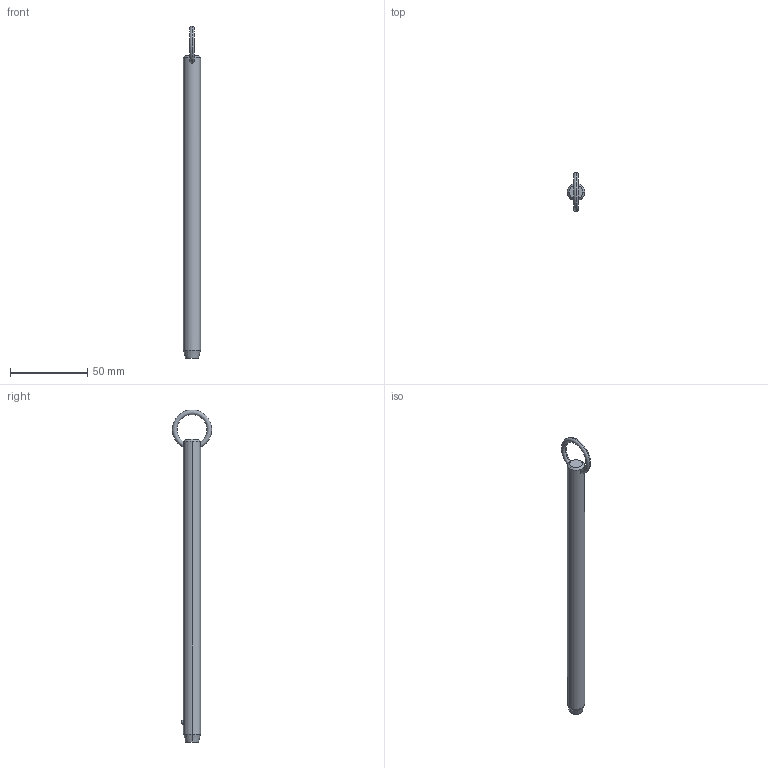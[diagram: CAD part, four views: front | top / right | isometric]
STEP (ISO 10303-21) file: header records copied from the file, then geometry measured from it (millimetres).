
FILE_DESCRIPTION (( 'STEP AP203' ), '1' );
FILE_NAME ('P1250.050-690.step', '2019-07-29T20:43:07', ( '' ), ( '' ), 'SwSTEP 2.0', 'SolidWorks 2017', '' );
FILE_SCHEMA (( 'CONFIG_CONTROL_DESIGN' ));
Length unit declared in the file: millimetre
Products named in the file (1): P1250.050-690
Bounding box: 11.1 x 25.32 x 214.85 mm (x, y, z)
Volume: 19239.7 mm3; surface area: 7484 mm2
Topology: 1 solids, 1 shells, 12 faces, 28 edges, 17 vertices
Faces by surface type: cone 4, torus 2, sphere 2, cylinder 2, plane 2
Entity records: 523 total; most frequent: CARTESIAN_POINT 190, DIRECTION 56, ORIENTED_EDGE 48, AXIS2_PLACEMENT_3D 25, EDGE_CURVE 24, EDGE_LOOP 15, VERTEX_POINT 15, CIRCLE 12
